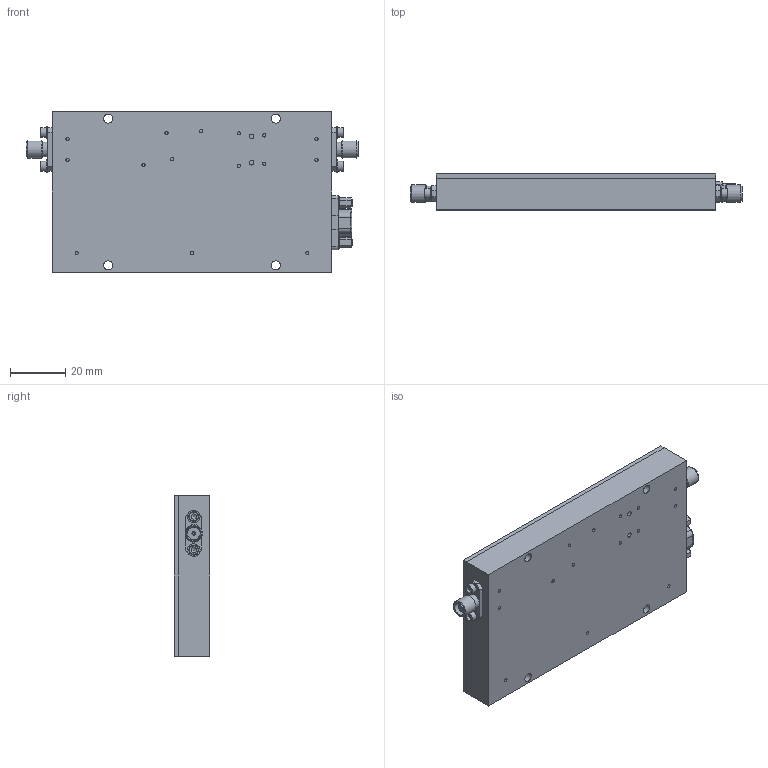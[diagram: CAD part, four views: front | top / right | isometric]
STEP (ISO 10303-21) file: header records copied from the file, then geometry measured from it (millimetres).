
FILE_DESCRIPTION((''),'2;1');
FILE_NAME('\\SERPENTOR\Engineering\ENG\Models\TAxxxx\TA1205\Inventor\Drawings\168.stp','2017-05-19T11:44:04',('Jack Slater'),(''),'Autodesk Inventor 2013','Autodesk Inventor 2013','');
FILE_SCHEMA(('AUTOMOTIVE_DESIGN { 1 0 10303 214 1 1 1 1 }'));
Length unit declared in the file: inch
Products named in the file (9): TA1205; T53175343103; T50175343105; 410-003; 400-034; Hexagon Socket Head Cap Screw - Inch No. 2 - 56 UNC - 3/16; Regular Helical Spring Lock Washer (Inch) No.2; 561-011; Cross Recessed Flat Countersunk Head Machine Screw - Type I - Inch 2-56 x 3/16
Assembly tree (27 placements, depth 2):
  TA1205
    T53175343103
    T50175343105
    410-003  x2
    400-034
    Hexagon Socket Head Cap Screw - Inch No. 2 - 56 UNC - 3/16  x4
    Regular Helical Spring Lock Washer (Inch) No.2  x6
    561-011  x2
    Cross Recessed Flat Countersunk Head Machine Screw - Type I - Inch 2-56 x 3/16  x10
Bounding box: 120.65 x 13 x 58.42 mm (x, y, z)
Volume: 44711 mm3; surface area: 36389.3 mm2
Topology: 27 solids, 27 shells, 799 faces, 1982 edges, 1298 vertices
Faces by surface type: plane 345, cylinder 265, cone 106, torus 75, bspline 8
Full cylindrical faces by diameter (mm): 0.254 x2, 0.508 x18, 0.635 x9, 0.737 x2, 0.762 x9, 1.194 x15, 1.245 x2, 1.295 x2, 1.702 x20, 2.159 x2, 2.184 x16, 2.21 x2, 2.438 x10, 2.54 x4, 2.591 x4, 3.277 x8, 3.556 x4, 3.734 x10, 4.597 x2, 5.486 x4, 6.35 x2
Entity records: 13063 total; most frequent: CARTESIAN_POINT 2752, DIRECTION 2150, ORIENTED_EDGE 1694, AXIS2_PLACEMENT_3D 875, EDGE_CURVE 847, EDGE_LOOP 744, VERTEX_POINT 643, FACE_OUTER_BOUND 434
